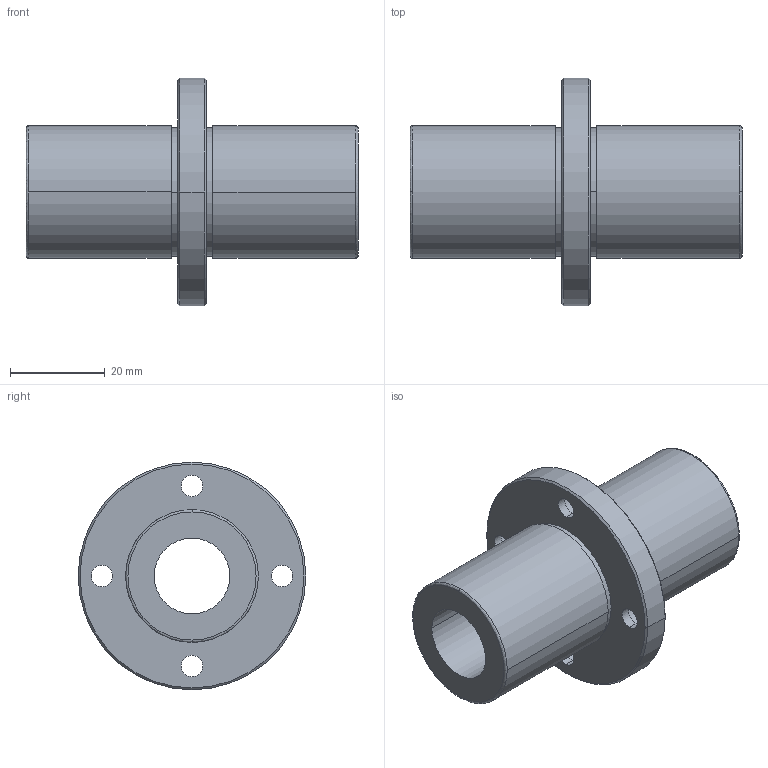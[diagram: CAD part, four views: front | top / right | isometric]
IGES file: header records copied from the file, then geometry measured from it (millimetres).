
Start section: 3D InterOp IGES (Version 21 0 1), Spatial Corp. Copyright (c) 1999-2007.
Global section: file name: NFCD-16VLUU.igs; native system: Spatial Corp.; preprocessor: 3D InterOp GENERIC/IGES 3.0; author: Noname; organization: Noname; date: 20220308.131918; units: millimetre
Bounding box: 70 x 48 x 48 mm (x, y, z)
Surface area: 13691.6 mm2 (no closed solid volume)
Topology: 0 solids, 0 shells, 46 faces, 210 edges, 210 vertices
Faces by surface type: revolution 36, extrusion 10
